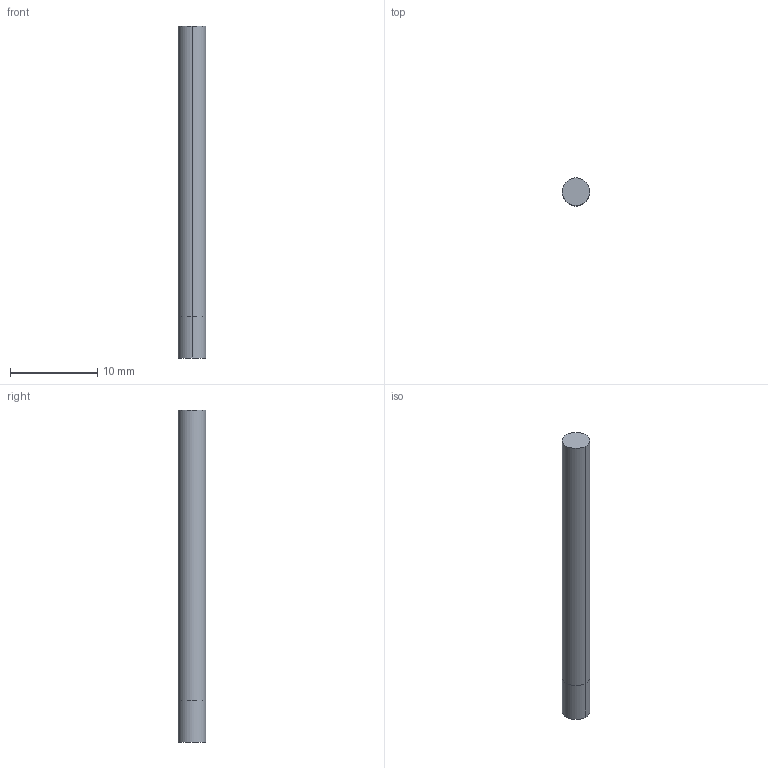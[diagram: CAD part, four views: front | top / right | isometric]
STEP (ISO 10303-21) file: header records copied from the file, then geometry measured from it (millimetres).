
FILE_DESCRIPTION((' '),'2;1');
FILE_NAME( '3MVS1250AH.stp', '2026-01-21T19:26:19', (' '), ('--- Datakit www.datakit.com---'), ' Datakit CrossCadWare V2025.4 Sep 19 2025', 'Mastercam 2027', ' ');
FILE_SCHEMA(('AUTOMOTIVE_DESIGN { 1 0 10303 214 1 1 1 1 }'));
Length unit declared in the file: inch
Products named in the file (1): 3MVS1250AH
Bounding box: 3.17 x 3.17 x 38.1 mm (x, y, z)
Volume: 301.6 mm3; surface area: 395.9 mm2
Topology: 1 solids, 1 shells, 6 faces, 10 edges, 6 vertices
Faces by surface type: cylinder 4, plane 2
Entity records: 212 total; most frequent: DIRECTION 38, CARTESIAN_POINT 27, ORIENTED_EDGE 20, AXIS2_PLACEMENT_3D 17, EDGE_CURVE 10, VERTEX_POINT 6, CIRCLE 6, EDGE_LOOP 6
